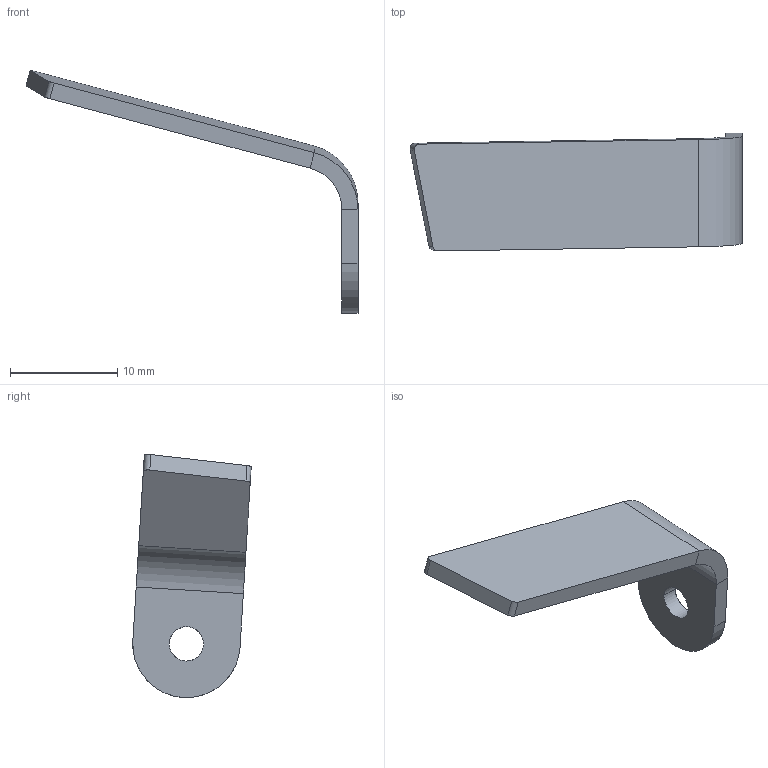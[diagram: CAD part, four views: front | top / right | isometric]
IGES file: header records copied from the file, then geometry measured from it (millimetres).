
Start section: START RECORD GO HERE.
Global section: file name: 20M_EL_04009 (chape tdb centre droite).igs; native system: IBM CATIA IGES - CATIA Version 5 Release 19 ; preprocessor: CATIA Version 5 Release 19 ; author: mik75; organization: LAPTOP-SUH344G9; date: 20200123.185943; units: millimetre
Bounding box: 30.92 x 11.02 x 22.65 mm (x, y, z)
Surface area: 983 mm2 (no closed solid volume)
Topology: 0 solids, 0 shells, 18 faces, 82 edges, 83 vertices
Faces by surface type: plane 11, revolution 7
